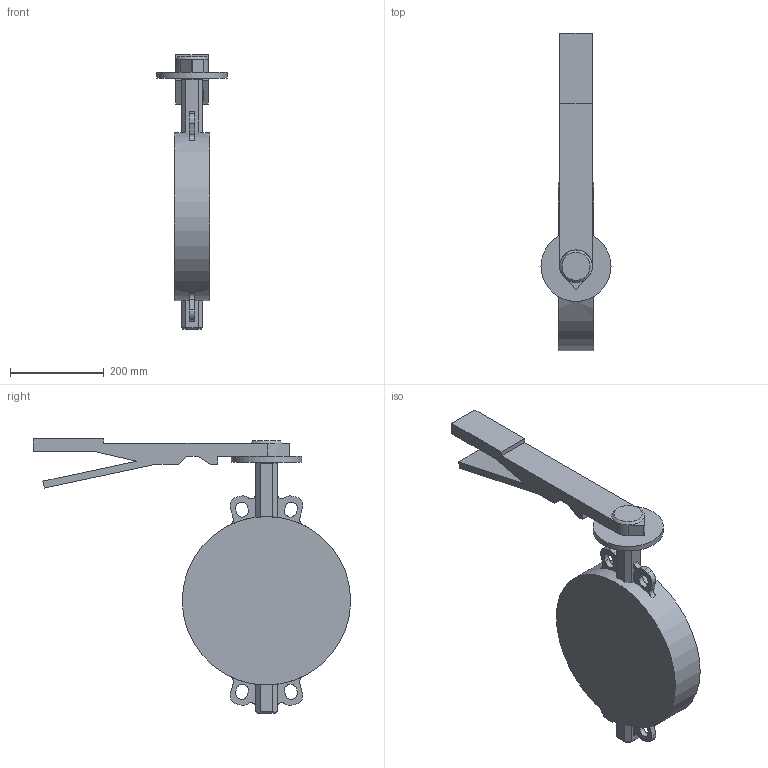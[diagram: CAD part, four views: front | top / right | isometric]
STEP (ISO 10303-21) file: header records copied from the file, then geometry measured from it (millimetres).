
FILE_DESCRIPTION(/* description */ (''),/* implementation_level */ '2;1');
FILE_NAME(/* name */ 'DN300.stp',/* time_stamp */ '2026-06-17T16:09:09+08:00',/* author */ (''),/* organization */ (''),/* preprocessor_version */ 'ST-DEVELOPER v16.7',/* originating_system */ 'SIEMENS PLM Software NX 12.0',/* authorisation */ '');
FILE_SCHEMA (('AUTOMOTIVE_DESIGN { 1 0 10303 214 3 1 1 1 }'));
Length unit declared in the file: millimetre
Products named in the file (1): DN300
Bounding box: 150 x 678.35 x 586.63 mm (x, y, z)
Volume: 9701514.1 mm3; surface area: 524194.3 mm2
Topology: 2 solids, 2 shells, 121 faces, 322 edges, 208 vertices
Faces by surface type: plane 88, cylinder 32, cone 1
Full cylindrical faces by diameter (mm): 150 x1, 360 x1
Entity records: 3745 total; most frequent: DIRECTION 649, CARTESIAN_POINT 642, ORIENTED_EDGE 630, EDGE_CURVE 315, LINE 225, VECTOR 225, AXIS2_PLACEMENT_3D 212, VERTEX_POINT 205
